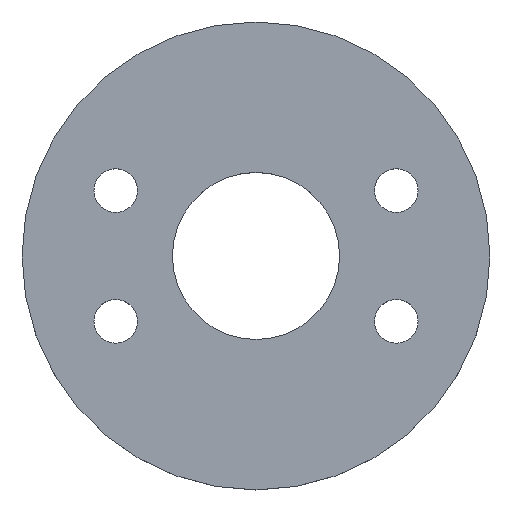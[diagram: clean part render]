
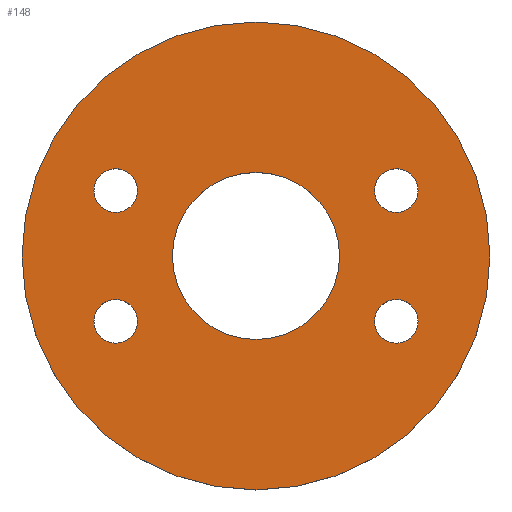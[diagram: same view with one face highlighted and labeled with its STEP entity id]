
A CAD part, top view. The second image highlights one B-rep face of the part: STEP entity #148.
In plain terms, the highlighted planar face has unit normal (0, 0, 1).
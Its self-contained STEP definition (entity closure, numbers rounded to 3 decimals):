
#6 = ORIENTED_EDGE ( 'NONE', *, *, #84, .T. ) ;
#9 = EDGE_CURVE ( 'NONE', #413, #398, #205, .T. ) ;
#31 = CARTESIAN_POINT ( 'NONE',  ( 115., 0., 22.5 ) ) ;
#33 = CARTESIAN_POINT ( 'NONE',  ( 193.044, -90.018, 22.5 ) ) ;
#35 = FACE_BOUND ( 'NONE', #424, .T. ) ;
#36 = CIRCLE ( 'NONE', #124, 30. ) ;
#40 = VERTEX_POINT ( 'NONE', #83 ) ;
#42 = DIRECTION ( 'NONE',  ( 1., 0., 0. ) ) ;
#50 = CIRCLE ( 'NONE', #302, 322. ) ;
#53 = AXIS2_PLACEMENT_3D ( 'NONE', #325, #327, #358 ) ;
#54 = EDGE_CURVE ( 'NONE', #278, #412, #442, .T. ) ;
#55 = FACE_BOUND ( 'NONE', #248, .T. ) ;
#58 = CIRCLE ( 'NONE', #422, 322. ) ;
#62 = VERTEX_POINT ( 'NONE', #403 ) ;
#64 = CARTESIAN_POINT ( 'NONE',  ( 322., 0., 22.5 ) ) ;
#65 = DIRECTION ( 'NONE',  ( 0., 0., 1. ) ) ;
#67 = FACE_BOUND ( 'NONE', #452, .T. ) ;
#72 = CARTESIAN_POINT ( 'NONE',  ( 223.044, 90.018, 22.5 ) ) ;
#74 = DIRECTION ( 'NONE',  ( 1., 0., 0. ) ) ;
#79 = DIRECTION ( 'NONE',  ( 0., 0., 1. ) ) ;
#83 = CARTESIAN_POINT ( 'NONE',  ( -223.044, 90.018, 22.5 ) ) ;
#84 = EDGE_CURVE ( 'NONE', #507, #89, #50, .T. ) ;
#89 = VERTEX_POINT ( 'NONE', #64 ) ;
#90 = VERTEX_POINT ( 'NONE', #338 ) ;
#93 = DIRECTION ( 'NONE',  ( 1., 0., 0. ) ) ;
#95 = FACE_OUTER_BOUND ( 'NONE', #430, .T. ) ;
#99 = CARTESIAN_POINT ( 'NONE',  ( -193.044, -90.018, 22.5 ) ) ;
#102 = ORIENTED_EDGE ( 'NONE', *, *, #244, .F. ) ;
#107 = DIRECTION ( 'NONE',  ( -1., 0., 0. ) ) ;
#119 = CARTESIAN_POINT ( 'NONE',  ( -115., 0., 22.5 ) ) ;
#122 = DIRECTION ( 'NONE',  ( 0., 0., 1. ) ) ;
#123 = CARTESIAN_POINT ( 'NONE',  ( 0., 0., 22.5 ) ) ;
#124 = AXIS2_PLACEMENT_3D ( 'NONE', #33, #211, #151 ) ;
#128 = DIRECTION ( 'NONE',  ( 1., 0., 0. ) ) ;
#131 = DIRECTION ( 'NONE',  ( 1., 0., 0. ) ) ;
#135 = FACE_BOUND ( 'NONE', #360, .T. ) ;
#139 = EDGE_LOOP ( 'NONE', ( #538, #434 ) ) ;
#148 = ADVANCED_FACE ( 'NONE', ( #177, #35, #67, #135, #95, #55 ), #169, .T. ) ;
#151 = DIRECTION ( 'NONE',  ( -1., 0., 0. ) ) ;
#152 = AXIS2_PLACEMENT_3D ( 'NONE', #221, #281, #74 ) ;
#154 = VERTEX_POINT ( 'NONE', #454 ) ;
#169 = PLANE ( 'NONE',  #447 ) ;
#171 = CIRCLE ( 'NONE', #544, 30. ) ;
#172 = ORIENTED_EDGE ( 'NONE', *, *, #9, .F. ) ;
#177 = FACE_BOUND ( 'NONE', #139, .T. ) ;
#184 = ORIENTED_EDGE ( 'NONE', *, *, #486, .F. ) ;
#194 = ORIENTED_EDGE ( 'NONE', *, *, #496, .F. ) ;
#195 = CIRCLE ( 'NONE', #492, 30. ) ;
#196 = CARTESIAN_POINT ( 'NONE',  ( -223.044, -90.018, 22.5 ) ) ;
#199 = ORIENTED_EDGE ( 'NONE', *, *, #407, .F. ) ;
#204 = EDGE_CURVE ( 'NONE', #89, #507, #58, .T. ) ;
#205 = CIRCLE ( 'NONE', #152, 30. ) ;
#211 = DIRECTION ( 'NONE',  ( 0., 0., 1. ) ) ;
#214 = DIRECTION ( 'NONE',  ( -1., 0., 0. ) ) ;
#221 = CARTESIAN_POINT ( 'NONE',  ( 193.044, 90.018, 22.5 ) ) ;
#225 = AXIS2_PLACEMENT_3D ( 'NONE', #526, #409, #373 ) ;
#228 = ORIENTED_EDGE ( 'NONE', *, *, #54, .F. ) ;
#236 = CIRCLE ( 'NONE', #414, 30. ) ;
#242 = ORIENTED_EDGE ( 'NONE', *, *, #204, .T. ) ;
#244 = EDGE_CURVE ( 'NONE', #412, #278, #466, .T. ) ;
#248 = EDGE_LOOP ( 'NONE', ( #228, #102 ) ) ;
#249 = CARTESIAN_POINT ( 'NONE',  ( 0., 0., 22.5 ) ) ;
#250 = DIRECTION ( 'NONE',  ( 0., 0., 1. ) ) ;
#256 = DIRECTION ( 'NONE',  ( 0., 0., 1. ) ) ;
#261 = DIRECTION ( 'NONE',  ( 0., 0., 1. ) ) ;
#267 = ORIENTED_EDGE ( 'NONE', *, *, #508, .F. ) ;
#270 = EDGE_CURVE ( 'NONE', #154, #502, #171, .T. ) ;
#278 = VERTEX_POINT ( 'NONE', #119 ) ;
#281 = DIRECTION ( 'NONE',  ( 0., 0., 1. ) ) ;
#283 = DIRECTION ( 'NONE',  ( 0., 0., 1. ) ) ;
#289 = CARTESIAN_POINT ( 'NONE',  ( 223.044, -90.018, 22.5 ) ) ;
#292 = CARTESIAN_POINT ( 'NONE',  ( -193.044, -90.018, 22.5 ) ) ;
#295 = AXIS2_PLACEMENT_3D ( 'NONE', #512, #476, #214 ) ;
#302 = AXIS2_PLACEMENT_3D ( 'NONE', #249, #250, #131 ) ;
#325 = CARTESIAN_POINT ( 'NONE',  ( 193.044, 90.018, 22.5 ) ) ;
#327 = DIRECTION ( 'NONE',  ( 0., 0., 1. ) ) ;
#338 = CARTESIAN_POINT ( 'NONE',  ( -163.044, -90.018, 22.5 ) ) ;
#341 = DIRECTION ( 'NONE',  ( 1., 0., 0. ) ) ;
#358 = DIRECTION ( 'NONE',  ( 1., 0., 0. ) ) ;
#359 = EDGE_CURVE ( 'NONE', #62, #40, #542, .T. ) ;
#360 = EDGE_LOOP ( 'NONE', ( #172, #194 ) ) ;
#371 = DIRECTION ( 'NONE',  ( -1., 0., 0. ) ) ;
#373 = DIRECTION ( 'NONE',  ( 1., 0., 0. ) ) ;
#376 = DIRECTION ( 'NONE',  ( 1., 0., 0. ) ) ;
#377 = DIRECTION ( 'NONE',  ( 0., 0., 1. ) ) ;
#388 = CARTESIAN_POINT ( 'NONE',  ( -322., 0., 22.5 ) ) ;
#398 = VERTEX_POINT ( 'NONE', #460 ) ;
#402 = ORIENTED_EDGE ( 'NONE', *, *, #270, .F. ) ;
#403 = CARTESIAN_POINT ( 'NONE',  ( -163.044, 90.018, 22.5 ) ) ;
#407 = EDGE_CURVE ( 'NONE', #90, #444, #236, .T. ) ;
#409 = DIRECTION ( 'NONE',  ( 0., 0., 1. ) ) ;
#411 = CARTESIAN_POINT ( 'NONE',  ( 0., 0., 22.5 ) ) ;
#412 = VERTEX_POINT ( 'NONE', #31 ) ;
#413 = VERTEX_POINT ( 'NONE', #72 ) ;
#414 = AXIS2_PLACEMENT_3D ( 'NONE', #99, #283, #93 ) ;
#422 = AXIS2_PLACEMENT_3D ( 'NONE', #123, #377, #341 ) ;
#424 = EDGE_LOOP ( 'NONE', ( #199, #184 ) ) ;
#430 = EDGE_LOOP ( 'NONE', ( #6, #242 ) ) ;
#434 = ORIENTED_EDGE ( 'NONE', *, *, #456, .F. ) ;
#437 = CARTESIAN_POINT ( 'NONE',  ( 193.044, -90.018, 22.5 ) ) ;
#442 = CIRCLE ( 'NONE', #225, 115. ) ;
#444 = VERTEX_POINT ( 'NONE', #196 ) ;
#447 = AXIS2_PLACEMENT_3D ( 'NONE', #457, #65, #128 ) ;
#452 = EDGE_LOOP ( 'NONE', ( #267, #402 ) ) ;
#454 = CARTESIAN_POINT ( 'NONE',  ( 163.044, -90.018, 22.5 ) ) ;
#456 = EDGE_CURVE ( 'NONE', #40, #62, #195, .T. ) ;
#457 = CARTESIAN_POINT ( 'NONE',  ( 0., 0., 22.5 ) ) ;
#460 = CARTESIAN_POINT ( 'NONE',  ( 163.044, 90.018, 22.5 ) ) ;
#464 = AXIS2_PLACEMENT_3D ( 'NONE', #292, #261, #42 ) ;
#466 = CIRCLE ( 'NONE', #475, 115. ) ;
#475 = AXIS2_PLACEMENT_3D ( 'NONE', #411, #122, #376 ) ;
#476 = DIRECTION ( 'NONE',  ( 0., 0., 1. ) ) ;
#478 = CIRCLE ( 'NONE', #53, 30. ) ;
#486 = EDGE_CURVE ( 'NONE', #444, #90, #490, .T. ) ;
#490 = CIRCLE ( 'NONE', #464, 30. ) ;
#492 = AXIS2_PLACEMENT_3D ( 'NONE', #509, #79, #371 ) ;
#496 = EDGE_CURVE ( 'NONE', #398, #413, #478, .T. ) ;
#502 = VERTEX_POINT ( 'NONE', #289 ) ;
#507 = VERTEX_POINT ( 'NONE', #388 ) ;
#508 = EDGE_CURVE ( 'NONE', #502, #154, #36, .T. ) ;
#509 = CARTESIAN_POINT ( 'NONE',  ( -193.044, 90.018, 22.5 ) ) ;
#512 = CARTESIAN_POINT ( 'NONE',  ( -193.044, 90.018, 22.5 ) ) ;
#526 = CARTESIAN_POINT ( 'NONE',  ( 0., 0., 22.5 ) ) ;
#538 = ORIENTED_EDGE ( 'NONE', *, *, #359, .F. ) ;
#542 = CIRCLE ( 'NONE', #295, 30. ) ;
#544 = AXIS2_PLACEMENT_3D ( 'NONE', #437, #256, #107 ) ;
